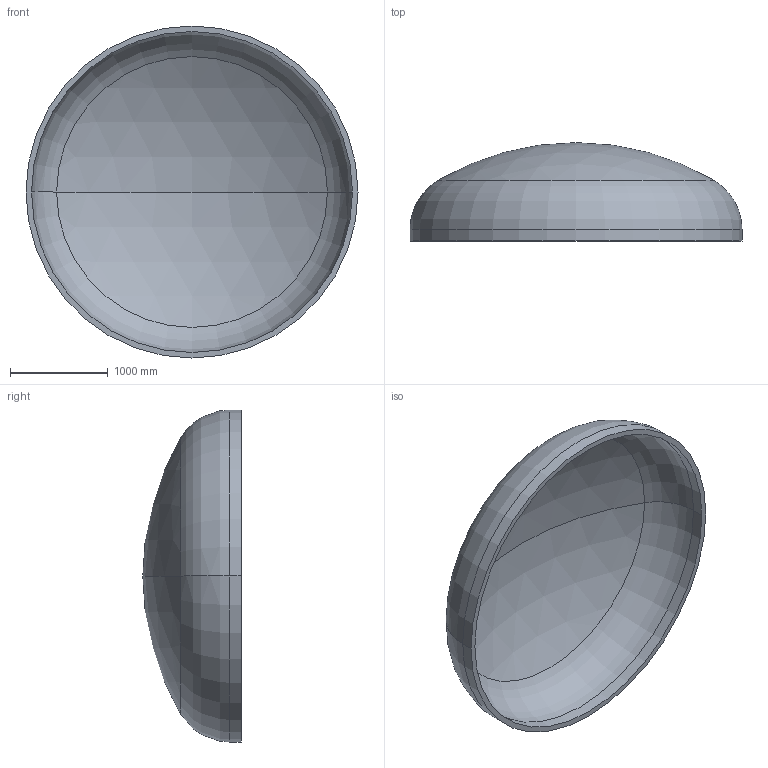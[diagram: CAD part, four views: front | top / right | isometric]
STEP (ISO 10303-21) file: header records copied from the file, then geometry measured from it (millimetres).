
FILE_DESCRIPTION (( 'STEP AP203' ), '1' );
FILE_NAME ('DIN 28013 Korbbogenform_-_Boden DIN 28013 - 3400 x 120 - I - s=56.step', '2016-07-01T19:37:36', ( '' ), ( '' ), 'SwSTEP 2.0', 'SolidWorks 2013', '' );
FILE_SCHEMA (( 'CONFIG_CONTROL_DESIGN' ));
Length unit declared in the file: millimetre
Products named in the file (1): DIN 28013 Korbbogenform_-_Boden DIN 28013 - 3400 x 120 - I - s=56
Bounding box: 3400 x 1007.65 x 3400 mm (x, y, z)
Volume: 759997789.1 mm3; surface area: 27737643.9 mm2
Topology: 1 solids, 1 shells, 13 faces, 24 edges, 14 vertices
Faces by surface type: torus 4, cylinder 4, sphere 4, plane 1
Entity records: 407 total; most frequent: DIRECTION 72, CARTESIAN_POINT 52, ORIENTED_EDGE 48, AXIS2_PLACEMENT_3D 34, EDGE_CURVE 24, CIRCLE 20, EDGE_LOOP 14, VERTEX_POINT 14
